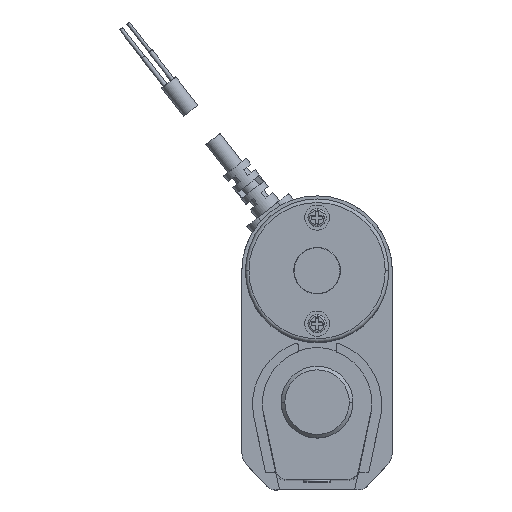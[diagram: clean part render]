
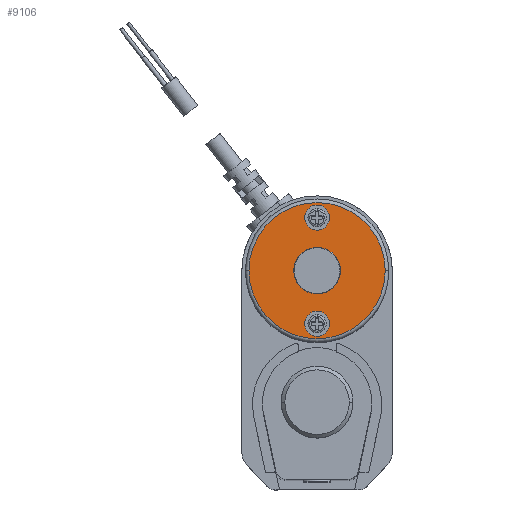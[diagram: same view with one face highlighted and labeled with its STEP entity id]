
A CAD part, top view. The second image highlights one B-rep face of the part: STEP entity #9106.
In plain terms, the highlighted planar face has unit normal (0, 0, 1).
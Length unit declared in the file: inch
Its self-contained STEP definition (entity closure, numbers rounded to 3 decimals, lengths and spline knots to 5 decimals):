
#1082 = DIRECTION ( 'NONE',  ( 0., 0., 1. ) ) ;
#2714 = ORIENTED_EDGE ( 'NONE', *, *, #3277, .F. ) ;
#2778 = VERTEX_POINT ( 'NONE', #21215 ) ;
#3277 = EDGE_CURVE ( 'NONE', #22745, #18880, #13687, .T. ) ;
#3391 = CARTESIAN_POINT ( 'NONE',  ( 0., 1.41552, 3.74016 ) ) ;
#3499 = CARTESIAN_POINT ( 'NONE',  ( 0., 0.83285, 3.74016 ) ) ;
#3633 = AXIS2_PLACEMENT_3D ( 'NONE', #3499, #14488, #16328 ) ;
#3712 = DIRECTION ( 'NONE',  ( -1., 0., 0. ) ) ;
#4943 = CARTESIAN_POINT ( 'NONE',  ( 0., 0.83285, 3.74016 ) ) ;
#5024 = DIRECTION ( 'NONE',  ( 0., 0., 1. ) ) ;
#5224 = DIRECTION ( 'NONE',  ( -1., 0., 0. ) ) ;
#5316 = CARTESIAN_POINT ( 'NONE',  ( 0., 1.41552, 3.74016 ) ) ;
#5636 = AXIS2_PLACEMENT_3D ( 'NONE', #16456, #14561, #3712 ) ;
#5789 = ORIENTED_EDGE ( 'NONE', *, *, #22902, .F. ) ;
#5826 = CIRCLE ( 'NONE', #3633, 0.74803 ) ;
#5894 = AXIS2_PLACEMENT_3D ( 'NONE', #3391, #16048, #5224 ) ;
#6229 = CARTESIAN_POINT ( 'NONE',  ( 0., 0.83285, 3.74016 ) ) ;
#6509 = CARTESIAN_POINT ( 'NONE',  ( 0.05906, 1.41552, 3.74016 ) ) ;
#6607 = CARTESIAN_POINT ( 'NONE',  ( -0.05906, 1.41552, 3.74016 ) ) ;
#7697 = EDGE_LOOP ( 'NONE', ( #15450, #12947 ) ) ;
#8021 = DIRECTION ( 'NONE',  ( -1., 0., 0. ) ) ;
#9106 = ADVANCED_FACE ( 'NONE', ( #10824, #23377, #18539 ), #17068, .T. ) ;
#10075 = CIRCLE ( 'NONE', #15561, 0.05906 ) ;
#10821 = VERTEX_POINT ( 'NONE', #18655 ) ;
#10824 = FACE_BOUND ( 'NONE', #19136, .T. ) ;
#11182 = DIRECTION ( 'NONE',  ( -1., 0., 0. ) ) ;
#11626 = EDGE_CURVE ( 'NONE', #19846, #10821, #12019, .T. ) ;
#11634 = AXIS2_PLACEMENT_3D ( 'NONE', #13867, #1082, #21230 ) ;
#11830 = CARTESIAN_POINT ( 'NONE',  ( 0.05906, 0.25017, 3.74016 ) ) ;
#12019 = CIRCLE ( 'NONE', #5636, 0.05906 ) ;
#12947 = ORIENTED_EDGE ( 'NONE', *, *, #15666, .T. ) ;
#13687 = CIRCLE ( 'NONE', #5894, 0.05906 ) ;
#13867 = CARTESIAN_POINT ( 'NONE',  ( 0., 0.25017, 3.74016 ) ) ;
#14107 = DIRECTION ( 'NONE',  ( -1., 0., 0. ) ) ;
#14414 = ORIENTED_EDGE ( 'NONE', *, *, #11626, .F. ) ;
#14488 = DIRECTION ( 'NONE',  ( 0., 0., 1. ) ) ;
#14561 = DIRECTION ( 'NONE',  ( 0., 0., 1. ) ) ;
#15071 = AXIS2_PLACEMENT_3D ( 'NONE', #4943, #5024, #14107 ) ;
#15450 = ORIENTED_EDGE ( 'NONE', *, *, #21031, .T. ) ;
#15561 = AXIS2_PLACEMENT_3D ( 'NONE', #5316, #18429, #11182 ) ;
#15567 = EDGE_LOOP ( 'NONE', ( #5789, #14414 ) ) ;
#15666 = EDGE_CURVE ( 'NONE', #2778, #19613, #5826, .T. ) ;
#16048 = DIRECTION ( 'NONE',  ( 0., 0., 1. ) ) ;
#16328 = DIRECTION ( 'NONE',  ( -1., 0., 0. ) ) ;
#16456 = CARTESIAN_POINT ( 'NONE',  ( 0., 0.25017, 3.74016 ) ) ;
#16795 = CIRCLE ( 'NONE', #11634, 0.05906 ) ;
#17068 = PLANE ( 'NONE',  #22879 ) ;
#18429 = DIRECTION ( 'NONE',  ( 0., 0., 1. ) ) ;
#18539 = FACE_OUTER_BOUND ( 'NONE', #7697, .T. ) ;
#18655 = CARTESIAN_POINT ( 'NONE',  ( -0.05906, 0.25017, 3.74016 ) ) ;
#18880 = VERTEX_POINT ( 'NONE', #6509 ) ;
#18897 = DIRECTION ( 'NONE',  ( 0., 0., 1. ) ) ;
#19136 = EDGE_LOOP ( 'NONE', ( #2714, #20764 ) ) ;
#19232 = CARTESIAN_POINT ( 'NONE',  ( -0.74803, 0.83285, 3.74016 ) ) ;
#19613 = VERTEX_POINT ( 'NONE', #19232 ) ;
#19846 = VERTEX_POINT ( 'NONE', #11830 ) ;
#20468 = CIRCLE ( 'NONE', #15071, 0.74803 ) ;
#20764 = ORIENTED_EDGE ( 'NONE', *, *, #21649, .F. ) ;
#21031 = EDGE_CURVE ( 'NONE', #19613, #2778, #20468, .T. ) ;
#21215 = CARTESIAN_POINT ( 'NONE',  ( 0.74803, 0.83285, 3.74016 ) ) ;
#21230 = DIRECTION ( 'NONE',  ( -1., 0., 0. ) ) ;
#21649 = EDGE_CURVE ( 'NONE', #18880, #22745, #10075, .T. ) ;
#22745 = VERTEX_POINT ( 'NONE', #6607 ) ;
#22879 = AXIS2_PLACEMENT_3D ( 'NONE', #6229, #18897, #8021 ) ;
#22902 = EDGE_CURVE ( 'NONE', #10821, #19846, #16795, .T. ) ;
#23377 = FACE_BOUND ( 'NONE', #15567, .T. ) ;
